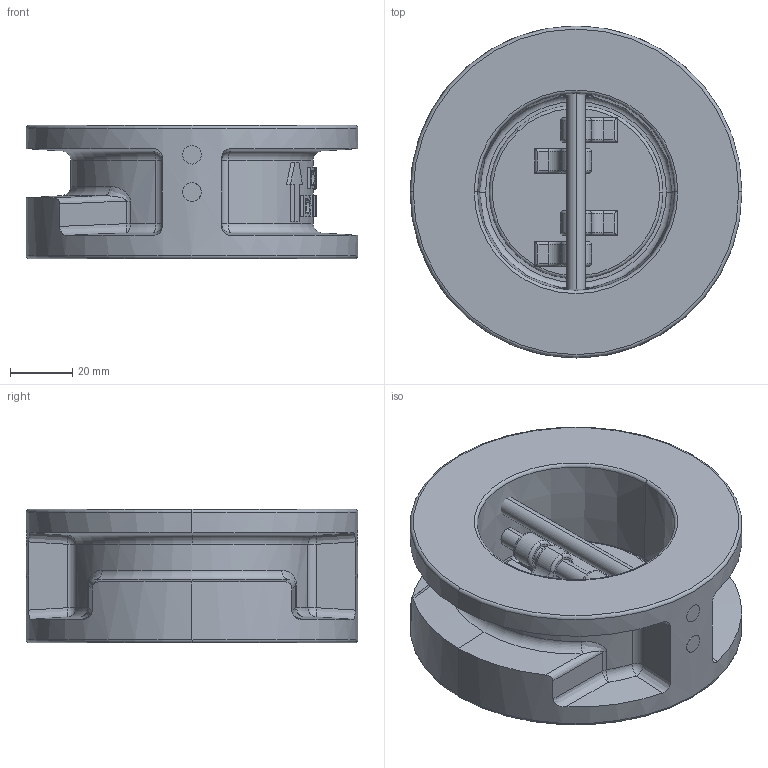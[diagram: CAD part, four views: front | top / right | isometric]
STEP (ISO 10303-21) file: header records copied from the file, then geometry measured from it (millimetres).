
FILE_DESCRIPTION (( 'STEP AP203' ), '1' );
FILE_NAME ('润泽DN50对夹双板止回阀PN16.STEP', '2026-08-19T02:43:25', ( 'Windows 用户' ), ( 'Microsoft' ), 'SwSTEP 2.0', 'SolidWorks 2022', '' );
FILE_SCHEMA (( 'CONFIG_CONTROL_DESIGN' ));
Length unit declared in the file: millimetre
Products named in the file (1): 润泽DN50对夹双板止回阀PN16
Bounding box: 107 x 107 x 43 mm (x, y, z)
Volume: 205522.9 mm3; surface area: 52193 mm2
Topology: 2 solids, 2 shells, 334 faces, 830 edges, 522 vertices
Faces by surface type: plane 102, bspline 81, cylinder 79, torus 46, cone 16, sphere 10
Entity records: 12516 total; most frequent: CARTESIAN_POINT 5051, ORIENTED_EDGE 1660, DIRECTION 1360, EDGE_CURVE 830, AXIS2_PLACEMENT_3D 524, VERTEX_POINT 522, EDGE_LOOP 366, ADVANCED_FACE 334
